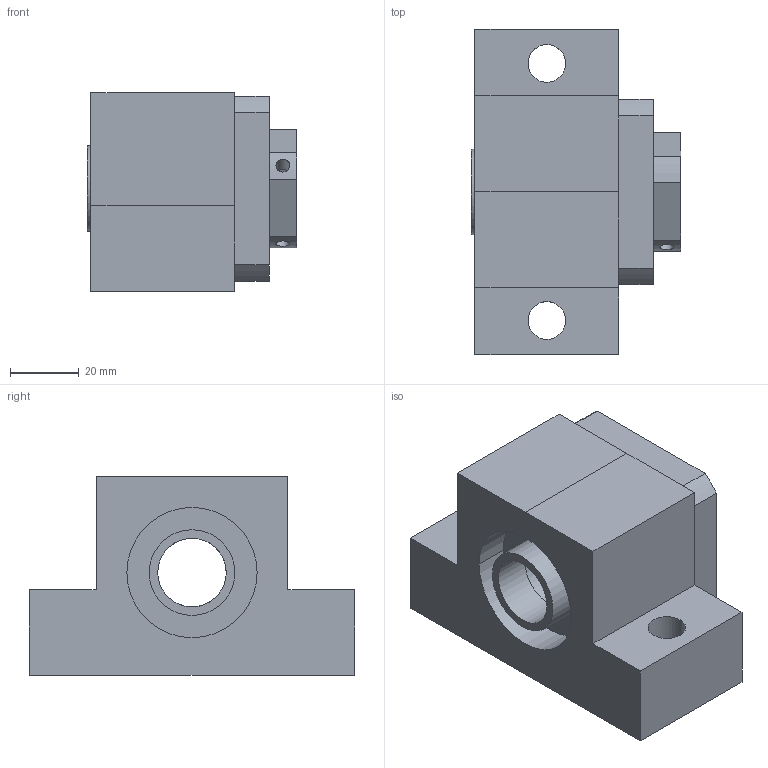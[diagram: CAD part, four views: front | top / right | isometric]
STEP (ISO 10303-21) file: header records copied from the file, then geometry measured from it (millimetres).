
FILE_DESCRIPTION(/* description */ (''),/* implementation_level */ '2;1');
FILE_NAME(/* name */ 'EK20-STP.stp',/* time_stamp */ '2019-11-21T11:26:48+08:00',/* author */ (''),/* organization */ (''),/* preprocessor_version */ 'ST-DEVELOPER v14',/* originating_system */ 'SIEMENS PLM Software NX 8.0',/* authorisation */ '');
FILE_SCHEMA (('AUTOMOTIVE_DESIGN { 1 0 10303 214 3 1 1 1 }'));
Length unit declared in the file: millimetre
Products named in the file (6): 7204; GT-25-20-11; EK20-SUB; EK20-LID; M20; EK20
Assembly tree (7 placements, depth 2):
  EK20
    M20
    EK20-LID
    EK20-SUB
    GT-25-20-11  x2
    7204  x2
Bounding box: 61 x 95 x 58 mm (x, y, z)
Volume: 171266.5 mm3; surface area: 54269.5 mm2
Topology: 7 solids, 7 shells, 89 faces, 198 edges, 134 vertices
Faces by surface type: cylinder 46, plane 43
Full cylindrical faces by diameter (mm): 4 x2, 5.5 x4, 10 x4, 20 x5, 25 x2, 28 x1, 38 x1, 47 x3
Entity records: 2618 total; most frequent: CARTESIAN_POINT 599, DIRECTION 416, ORIENTED_EDGE 324, AXIS2_PLACEMENT_3D 169, EDGE_CURVE 162, EDGE_LOOP 136, VERTEX_POINT 120, FACE_BOUND 96
